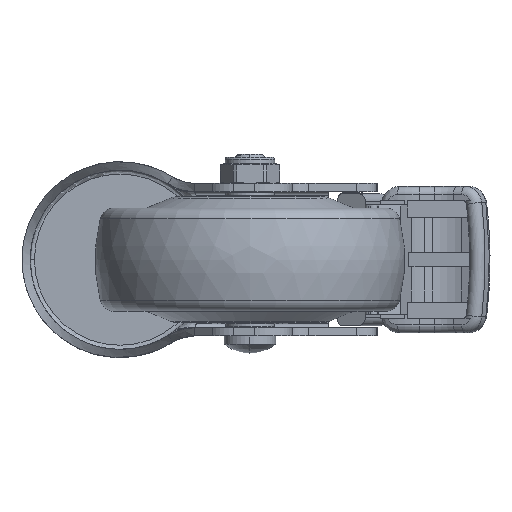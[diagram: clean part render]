
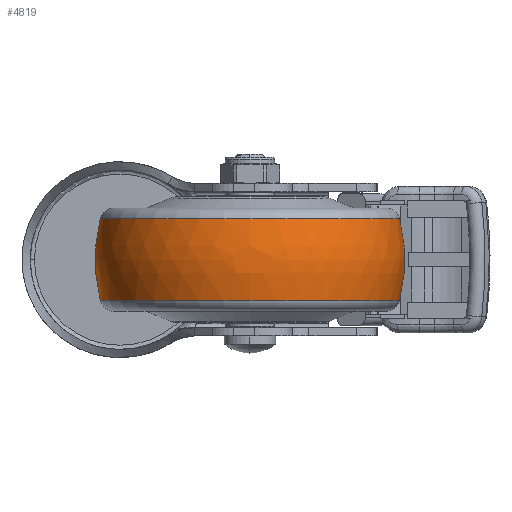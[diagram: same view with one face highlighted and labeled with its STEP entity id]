
A CAD part, front view. The second image highlights one B-rep face of the part: STEP entity #4819.
In plain terms, the highlighted free-form (B-spline) face has degree [3, 3] with [7, 4] control points.
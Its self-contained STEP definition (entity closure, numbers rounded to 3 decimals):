
#4357=CARTESIAN_POINT('',(0.,-2.5,0.));
#4358=DIRECTION('',(0.,0.,1.));
#4359=DIRECTION('',(0.247,0.969,0.));
#4360=AXIS2_PLACEMENT_3D('',#4357,#4358,#4359);
#4362=CARTESIAN_POINT('',(0.,2.5,0.));
#4363=DIRECTION('',(0.,0.,-1.));
#4364=DIRECTION('',(0.247,-0.969,0.));
#4365=AXIS2_PLACEMENT_3D('',#4362,#4363,#4364);
#4367=CARTESIAN_POINT('',(9.863,0.,0.));
#4368=DIRECTION('',(-1.,0.,0.));
#4369=DIRECTION('',(0.,1.,0.));
#4370=AXIS2_PLACEMENT_3D('',#4367,#4368,#4369);
#4382=CARTESIAN_POINT('',(-9.863,0.,0.));
#4383=DIRECTION('',(-1.,0.,0.));
#4384=DIRECTION('',(0.,1.,0.));
#4385=AXIS2_PLACEMENT_3D('',#4382,#4383,#4384);
#4662=CARTESIAN_POINT('',(9.863,36.265,0.));
#4663=CARTESIAN_POINT('',(-9.863,36.265,0.));
#4664=VERTEX_POINT('',#4662);
#4665=VERTEX_POINT('',#4663);
#4702=CARTESIAN_POINT('',(9.863,-36.265,0.));
#4703=CARTESIAN_POINT('',(-9.863,-36.265,0.));
#4704=VERTEX_POINT('',#4702);
#4705=VERTEX_POINT('',#4703);
#4782=CARTESIAN_POINT('',(-10.249,-36.093,
2.271));
#4783=CARTESIAN_POINT('',(-3.494,-37.88,
2.383));
#4784=CARTESIAN_POINT('',(3.494,-37.88,2.383));
#4785=CARTESIAN_POINT('',(10.249,-36.093,2.271));
#4786=CARTESIAN_POINT('',(-10.249,-37.491,
-19.941));
#4787=CARTESIAN_POINT('',(-3.494,-39.347,
-20.928));
#4788=CARTESIAN_POINT('',(3.494,-39.347,
-20.928));
#4789=CARTESIAN_POINT('',(10.249,-37.491,
-19.941));
#4790=CARTESIAN_POINT('',(-10.249,-22.256,
-36.165));
#4791=CARTESIAN_POINT('',(-3.494,-23.358,
-37.955));
#4792=CARTESIAN_POINT('',(3.494,-23.358,
-37.955));
#4793=CARTESIAN_POINT('',(10.249,-22.256,
-36.165));
#4794=CARTESIAN_POINT('',(-10.249,0.,-36.165));
#4795=CARTESIAN_POINT('',(-3.494,0.,-37.955));
#4796=CARTESIAN_POINT('',(3.494,0.,-37.955));
#4797=CARTESIAN_POINT('',(10.249,0.,-36.165));
#4798=CARTESIAN_POINT('',(-10.249,22.256,
-36.165));
#4799=CARTESIAN_POINT('',(-3.494,23.358,
-37.955));
#4800=CARTESIAN_POINT('',(3.494,23.358,-37.955));
#4801=CARTESIAN_POINT('',(10.249,22.256,-36.165));
#4802=CARTESIAN_POINT('',(-10.249,37.491,
-19.941));
#4803=CARTESIAN_POINT('',(-3.494,39.347,
-20.928));
#4804=CARTESIAN_POINT('',(3.494,39.347,-20.928));
#4805=CARTESIAN_POINT('',(10.249,37.491,-19.941));
#4806=CARTESIAN_POINT('',(-10.249,36.093,2.271));
#4807=CARTESIAN_POINT('',(-3.494,37.88,2.383));
#4808=CARTESIAN_POINT('',(3.494,37.88,2.383));
#4809=CARTESIAN_POINT('',(10.249,36.093,2.271));
#4810=(BOUNDED_SURFACE()B_SPLINE_SURFACE(3,3,((#4782,#4783,#4784,#4785),(#4786,
#4787,#4788,#4789),(#4790,#4791,#4792,#4793),(#4794,#4795,#4796,#4797),(#4798,
#4799,#4800,#4801),(#4802,#4803,#4804,#4805),(#4806,#4807,#4808,#4809)),
.UNSPECIFIED.,.F.,.F.,.F.)B_SPLINE_SURFACE_WITH_KNOTS((4,3,4),(4,4),(0.,1.,
2.),(0.,1.),.UNSPECIFIED.)GEOMETRIC_REPRESENTATION_ITEM()RATIONAL_B_SPLINE_SURFACE(((1.207,1.181,1.181,1.207),(
0.953,0.932,0.932,0.953),(
0.953,0.932,0.932,0.953),(
1.207,1.181,1.181,1.207),(
0.953,0.932,0.932,0.953),(
0.953,0.932,0.932,0.953),(
1.207,1.181,1.181,1.207)))REPRESENTATION_ITEM('')SURFACE());
#4811=ORIENTED_EDGE('',*,*,#4771,.T.);
#4813=ORIENTED_EDGE('',*,*,#4812,.T.);
#4814=ORIENTED_EDGE('',*,*,#4775,.F.);
#4816=ORIENTED_EDGE('',*,*,#4815,.F.);
#4817=EDGE_LOOP('',(#4811,#4813,#4814,#4816));
#4818=FACE_OUTER_BOUND('',#4817,.F.);
#4361=CIRCLE('',#4360,40.);
#4366=CIRCLE('',#4365,40.);
#4371=CIRCLE('',#4370,36.265);
#4386=CIRCLE('',#4385,36.265);
#4771=EDGE_CURVE('',#4664,#4665,#4361,.T.);
#4775=EDGE_CURVE('',#4704,#4705,#4366,.T.);
#4812=EDGE_CURVE('',#4665,#4705,#4386,.T.);
#4815=EDGE_CURVE('',#4664,#4704,#4371,.T.);
#4819=ADVANCED_FACE('',(#4818),#4810,.T.);
